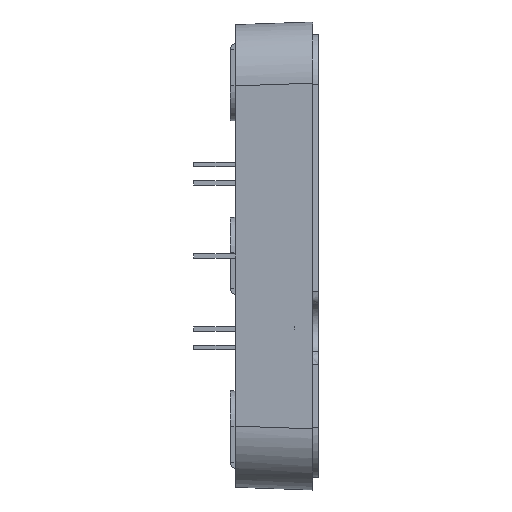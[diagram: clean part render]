
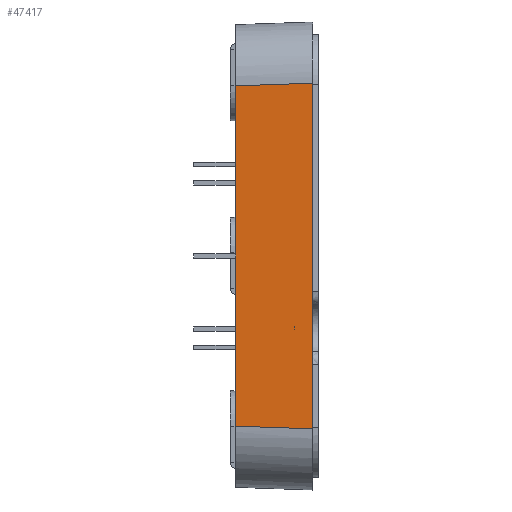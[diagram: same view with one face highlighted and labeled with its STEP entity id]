
A CAD part, left-side view. The second image highlights one B-rep face of the part: STEP entity #47417.
In plain terms, the highlighted planar face has unit normal (-0.999, 0.035, 0).
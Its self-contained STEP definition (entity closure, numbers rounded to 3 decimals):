
#8828 = ORIENTED_EDGE ( 'NONE', *, *, #31353, .F. ) ;
#12855 = LINE ( 'NONE', #64577, #63852 ) ;
#17386 = VERTEX_POINT ( 'NONE', #41941 ) ;
#17641 = CARTESIAN_POINT ( 'NONE',  ( -9.781, 54.037, 60.949 ) ) ;
#19978 = LINE ( 'NONE', #92871, #30358 ) ;
#20005 = CARTESIAN_POINT ( 'NONE',  ( -10.165, 43.041, 60.565 ) ) ;
#20335 = DIRECTION ( 'NONE',  ( -0.035, -0.999, -0.035 ) ) ;
#24777 = VERTEX_POINT ( 'NONE', #17641 ) ;
#27385 = DIRECTION ( 'NONE',  ( 0.035, 0.999, -0.035 ) ) ;
#28202 = VECTOR ( 'NONE', #36107, 1000. ) ;
#28455 = PLANE ( 'NONE',  #38944 ) ;
#30358 = VECTOR ( 'NONE', #70483, 1000. ) ;
#30370 = CARTESIAN_POINT ( 'NONE',  ( -10.155, 43.337, 60.575 ) ) ;
#31353 = EDGE_CURVE ( 'NONE', #24777, #17386, #19978, .T. ) ;
#35163 = LINE ( 'NONE', #80480, #28202 ) ;
#35254 = DIRECTION ( 'NONE',  ( -0.999, 0.035, 0. ) ) ;
#36107 = DIRECTION ( 'NONE',  ( 0., 0., 1. ) ) ;
#36468 = EDGE_CURVE ( 'NONE', #65863, #17386, #12855, .T. ) ;
#37108 = ORIENTED_EDGE ( 'NONE', *, *, #36468, .T. ) ;
#38944 = AXIS2_PLACEMENT_3D ( 'NONE', #42999, #35254, #79610 ) ;
#40030 = VECTOR ( 'NONE', #20335, 1000. ) ;
#41941 = CARTESIAN_POINT ( 'NONE',  ( -9.781, 54.037, 108.212 ) ) ;
#42999 = CARTESIAN_POINT ( 'NONE',  ( -10.155, 43.337, 52.081 ) ) ;
#47417 = ADVANCED_FACE ( 'NONE', ( #79922 ), #28455, .T. ) ;
#54364 = ORIENTED_EDGE ( 'NONE', *, *, #60121, .T. ) ;
#56797 = CARTESIAN_POINT ( 'NONE',  ( -10.155, 43.337, 108.586 ) ) ;
#60121 = EDGE_CURVE ( 'NONE', #65532, #65863, #35163, .T. ) ;
#63852 = VECTOR ( 'NONE', #27385, 1000. ) ;
#64577 = CARTESIAN_POINT ( 'NONE',  ( -10.086, 45.305, 108.517 ) ) ;
#65532 = VERTEX_POINT ( 'NONE', #30370 ) ;
#65863 = VERTEX_POINT ( 'NONE', #56797 ) ;
#70188 = EDGE_LOOP ( 'NONE', ( #89195, #54364, #37108, #8828 ) ) ;
#70483 = DIRECTION ( 'NONE',  ( 0., 0., 1. ) ) ;
#79610 = DIRECTION ( 'NONE',  ( -0.035, -0.999, 0. ) ) ;
#79922 = FACE_OUTER_BOUND ( 'NONE', #70188, .T. ) ;
#79966 = EDGE_CURVE ( 'NONE', #24777, #65532, #95741, .T. ) ;
#80480 = CARTESIAN_POINT ( 'NONE',  ( -10.155, 43.337, 52.081 ) ) ;
#89195 = ORIENTED_EDGE ( 'NONE', *, *, #79966, .T. ) ;
#92871 = CARTESIAN_POINT ( 'NONE',  ( -9.781, 54.037, 52.081 ) ) ;
#95741 = LINE ( 'NONE', #20005, #40030 ) ;
